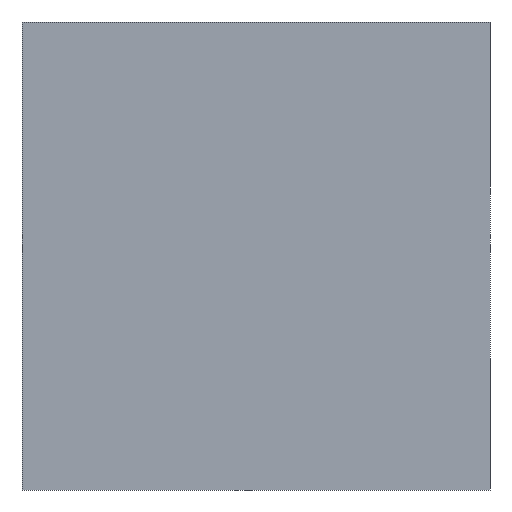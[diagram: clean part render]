
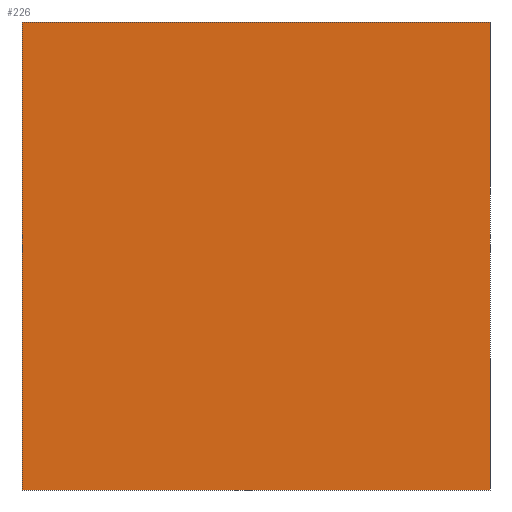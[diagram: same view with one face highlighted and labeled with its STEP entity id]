
A CAD part, front view. The second image highlights one B-rep face of the part: STEP entity #226.
In plain terms, the highlighted planar face has unit normal (0, -1, 0).
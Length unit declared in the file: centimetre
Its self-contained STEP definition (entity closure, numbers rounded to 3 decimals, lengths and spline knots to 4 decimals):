
#9 = LINE ( 'NONE', #88, #456 ) ;
#21 = LINE ( 'NONE', #255, #538 ) ;
#30 = DIRECTION ( 'NONE',  ( 0., 0., 1. ) ) ;
#48 = ORIENTED_EDGE ( 'NONE', *, *, #537, .T. ) ;
#55 = ORIENTED_EDGE ( 'NONE', *, *, #446, .F. ) ;
#58 = ORIENTED_EDGE ( 'NONE', *, *, #468, .T. ) ;
#77 = PLANE ( 'NONE',  #116 ) ;
#88 = CARTESIAN_POINT ( 'NONE',  ( 1000., 0., 1000. ) ) ;
#116 = AXIS2_PLACEMENT_3D ( 'NONE', #312, #279, #30 ) ;
#135 = VERTEX_POINT ( 'NONE', #392 ) ;
#138 = DIRECTION ( 'NONE',  ( 1., 0., 0. ) ) ;
#141 = EDGE_CURVE ( 'NONE', #495, #233, #142, .T. ) ;
#142 = LINE ( 'NONE', #475, #261 ) ;
#165 = DIRECTION ( 'NONE',  ( 0., 0., -1. ) ) ;
#169 = DIRECTION ( 'NONE',  ( 0., 0., -1. ) ) ;
#175 = ORIENTED_EDGE ( 'NONE', *, *, #141, .F. ) ;
#179 = CARTESIAN_POINT ( 'NONE',  ( 0., 0., 0. ) ) ;
#226 = ADVANCED_FACE ( 'NONE', ( #319 ), #77, .F. ) ;
#233 = VERTEX_POINT ( 'NONE', #445 ) ;
#255 = CARTESIAN_POINT ( 'NONE',  ( 0., 0., 1000. ) ) ;
#261 = VECTOR ( 'NONE', #380, 100. ) ;
#262 = LINE ( 'NONE', #179, #473 ) ;
#279 = DIRECTION ( 'NONE',  ( 0., 1., 0. ) ) ;
#281 = EDGE_LOOP ( 'NONE', ( #48, #55, #175, #58 ) ) ;
#312 = CARTESIAN_POINT ( 'NONE',  ( 0., 0., 1000. ) ) ;
#319 = FACE_OUTER_BOUND ( 'NONE', #281, .T. ) ;
#380 = DIRECTION ( 'NONE',  ( 1., 0., 0. ) ) ;
#391 = CARTESIAN_POINT ( 'NONE',  ( 0., 0., 1000. ) ) ;
#392 = CARTESIAN_POINT ( 'NONE',  ( 0., 0., 0. ) ) ;
#423 = CARTESIAN_POINT ( 'NONE',  ( 1000., 0., 0. ) ) ;
#445 = CARTESIAN_POINT ( 'NONE',  ( 1000., 0., 1000. ) ) ;
#446 = EDGE_CURVE ( 'NONE', #233, #463, #9, .T. ) ;
#456 = VECTOR ( 'NONE', #165, 100. ) ;
#463 = VERTEX_POINT ( 'NONE', #423 ) ;
#468 = EDGE_CURVE ( 'NONE', #495, #135, #21, .T. ) ;
#473 = VECTOR ( 'NONE', #138, 100. ) ;
#475 = CARTESIAN_POINT ( 'NONE',  ( 0., 0., 1000. ) ) ;
#495 = VERTEX_POINT ( 'NONE', #391 ) ;
#537 = EDGE_CURVE ( 'NONE', #135, #463, #262, .T. ) ;
#538 = VECTOR ( 'NONE', #169, 100. ) ;
